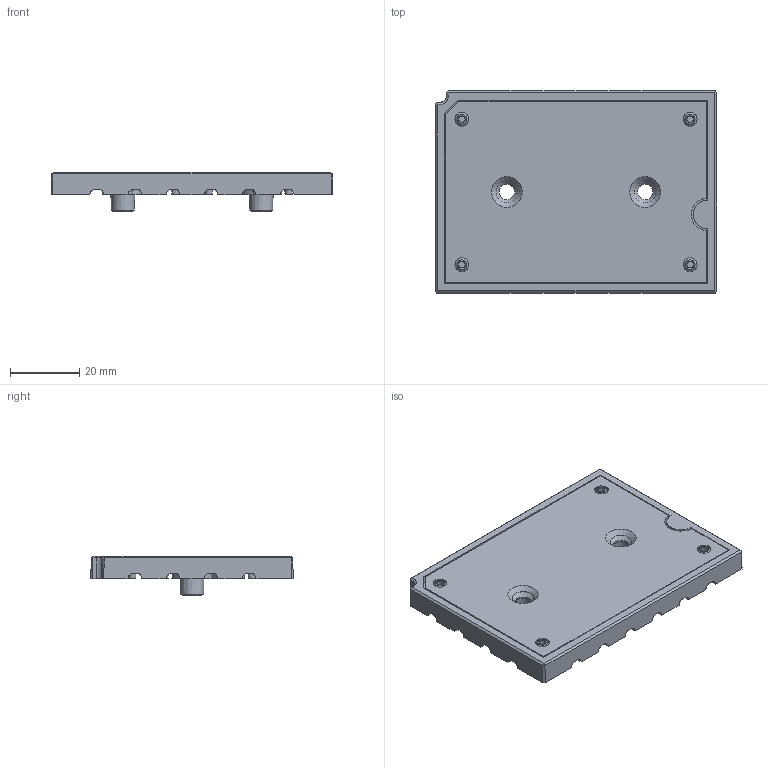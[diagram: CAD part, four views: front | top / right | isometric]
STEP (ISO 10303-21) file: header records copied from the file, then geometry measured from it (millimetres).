
FILE_DESCRIPTION(/* description */ ('Unknown','CAx-IF Rec.Pracs.---Representation and Presentation of Product Manufacturing Information (PMI)---4.0---2014-10-13','CAx-IF Rec.Pracs.---3D Tessellated Geometry---0.4---2014-09-14','2;1'),/* implementation_level */ '2;1');
FILE_NAME(/* name */ 'V23990-K32-T-02.01-27',/* time_stamp */ '2025-10-08T15:33:34+02:00',/* author */ ('Unknown'),/* organization */ ('Unknown'),/* preprocessor_version */ 'ST-DEVELOPER v20',/* originating_system */ 'Solid Edge',/* authorisation */ 'Unknown');
FILE_SCHEMA (('AP242_MANAGED_MODEL_BASED_3D_ENGINEERING_MIM_LF { 1 0 10303 442 1 1 4 }'));
Length unit declared in the file: millimetre
Products named in the file (3): MiniSKiiP 2nd Generation Standard Lid Size 3; 41350190; 41181230
Assembly tree (2 placements, depth 2):
  MiniSKiiP 2nd Generation Standard Lid Size 3
    41350190
    41181230
Bounding box: 81.5 x 58.5 x 11.5 mm (x, y, z)
Volume: 16464.8 mm3; surface area: 22444.1 mm2
Topology: 2 solids, 2 shells, 821 faces, 1941 edges, 1169 vertices
Faces by surface type: plane 240, bspline 203, cylinder 173, torus 117, cone 83, sphere 5
Full cylindrical faces by diameter (mm): 4 x4, 5 x17, 6 x2, 12 x2
Entity records: 25675 total; most frequent: CARTESIAN_POINT 9117, ORIENTED_EDGE 3542, DIRECTION 3105, EDGE_CURVE 1771, AXIS2_PLACEMENT_3D 1279, VERTEX_POINT 1124, EDGE_LOOP 1007, FACE_BOUND 1007
